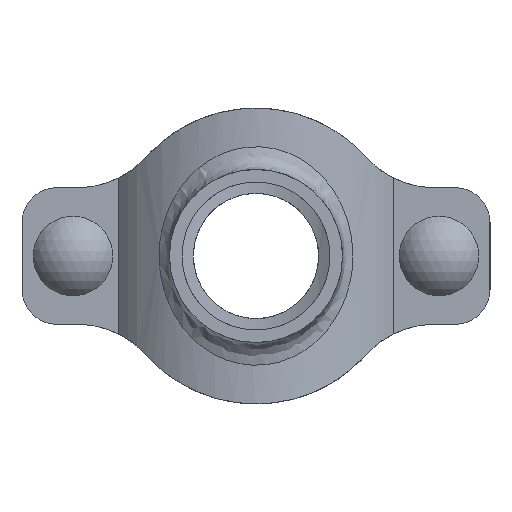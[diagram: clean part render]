
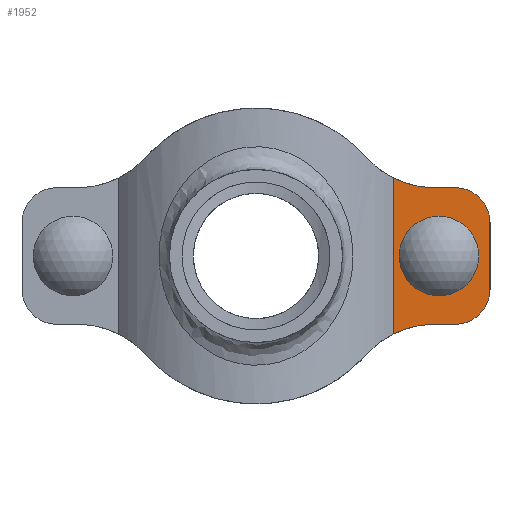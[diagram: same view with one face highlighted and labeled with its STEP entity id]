
A CAD part, front view. The second image highlights one B-rep face of the part: STEP entity #1952.
In plain terms, the highlighted planar face has unit normal (0, -1, 0) as drawn and (0, 1, 0) by its records, which use the part's own axes.
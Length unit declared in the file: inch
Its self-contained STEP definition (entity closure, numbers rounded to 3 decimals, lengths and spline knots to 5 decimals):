
#127=FACE_BOUND('',#345,.T.);
#218=FACE_OUTER_BOUND('',#344,.T.);
#344=EDGE_LOOP('',(#1623,#1624,#1625,#1626,#1627,#1628,#1629,#1630));
#345=EDGE_LOOP('',(#1631,#1632,#1633,#1634));
#457=LINE('',#3721,#603);
#468=LINE('',#3790,#614);
#472=LINE('',#3801,#618);
#490=LINE('',#4050,#636);
#491=LINE('',#4054,#637);
#492=LINE('',#4057,#638);
#603=VECTOR('',#2573,0.3937);
#614=VECTOR('',#2608,0.3937);
#618=VECTOR('',#2620,0.3937);
#636=VECTOR('',#2702,0.3937);
#637=VECTOR('',#2705,0.3937);
#638=VECTOR('',#2708,0.3937);
#712=CIRCLE('',#2164,0.2875);
#714=CIRCLE('',#2168,0.2875);
#733=CIRCLE('',#2201,1.);
#734=CIRCLE('',#2202,1.);
#735=CIRCLE('',#2203,0.38);
#736=CIRCLE('',#2204,0.38);
#858=VERTEX_POINT('',#3709);
#859=VERTEX_POINT('',#3720);
#869=VERTEX_POINT('',#3780);
#870=VERTEX_POINT('',#3781);
#873=VERTEX_POINT('',#3789);
#875=VERTEX_POINT('',#3795);
#907=VERTEX_POINT('',#4045);
#908=VERTEX_POINT('',#4047);
#909=VERTEX_POINT('',#4049);
#910=VERTEX_POINT('',#4051);
#911=VERTEX_POINT('',#4053);
#912=VERTEX_POINT('',#4055);
#1089=EDGE_CURVE('',#859,#858,#457,.T.);
#1104=EDGE_CURVE('',#869,#870,#712,.T.);
#1108=EDGE_CURVE('',#870,#873,#468,.T.);
#1111=EDGE_CURVE('',#873,#875,#714,.T.);
#1114=EDGE_CURVE('',#875,#869,#472,.T.);
#1156=EDGE_CURVE('',#859,#907,#733,.T.);
#1157=EDGE_CURVE('',#908,#858,#734,.T.);
#1158=EDGE_CURVE('',#909,#908,#490,.T.);
#1159=EDGE_CURVE('',#910,#909,#735,.T.);
#1160=EDGE_CURVE('',#911,#910,#491,.T.);
#1161=EDGE_CURVE('',#912,#911,#736,.T.);
#1162=EDGE_CURVE('',#907,#912,#492,.T.);
#1623=ORIENTED_EDGE('',*,*,#1156,.F.);
#1624=ORIENTED_EDGE('',*,*,#1089,.T.);
#1625=ORIENTED_EDGE('',*,*,#1157,.F.);
#1626=ORIENTED_EDGE('',*,*,#1158,.F.);
#1627=ORIENTED_EDGE('',*,*,#1159,.F.);
#1628=ORIENTED_EDGE('',*,*,#1160,.F.);
#1629=ORIENTED_EDGE('',*,*,#1161,.F.);
#1630=ORIENTED_EDGE('',*,*,#1162,.F.);
#1631=ORIENTED_EDGE('',*,*,#1111,.T.);
#1632=ORIENTED_EDGE('',*,*,#1114,.T.);
#1633=ORIENTED_EDGE('',*,*,#1104,.T.);
#1634=ORIENTED_EDGE('',*,*,#1108,.T.);
#1749=PLANE('',#2200);
#1952=ADVANCED_FACE('',(#218,#127),#1749,.F.);
#2164=AXIS2_PLACEMENT_3D('',#3782,#2600,#2601);
#2168=AXIS2_PLACEMENT_3D('',#3796,#2613,#2614);
#2200=AXIS2_PLACEMENT_3D('',#4044,#2696,#2697);
#2201=AXIS2_PLACEMENT_3D('',#4046,#2698,#2699);
#2202=AXIS2_PLACEMENT_3D('',#4048,#2700,#2701);
#2203=AXIS2_PLACEMENT_3D('',#4052,#2703,#2704);
#2204=AXIS2_PLACEMENT_3D('',#4056,#2706,#2707);
#2573=DIRECTION('',(0.,0.,-1.));
#2600=DIRECTION('center_axis',(0.,-1.,0.));
#2601=DIRECTION('ref_axis',(-1.,0.,0.));
#2608=DIRECTION('',(0.,0.,-1.));
#2613=DIRECTION('center_axis',(0.,-1.,0.));
#2614=DIRECTION('ref_axis',(1.,0.,0.));
#2620=DIRECTION('',(0.,0.,1.));
#2696=DIRECTION('center_axis',(0.,-1.,0.));
#2697=DIRECTION('ref_axis',(1.,0.,0.));
#2698=DIRECTION('center_axis',(0.,1.,0.));
#2699=DIRECTION('ref_axis',(-0.745,0.,0.667));
#2700=DIRECTION('center_axis',(0.,1.,0.));
#2701=DIRECTION('ref_axis',(0.,0.,-1.));
#2702=DIRECTION('',(1.,0.,0.));
#2703=DIRECTION('center_axis',(0.,-1.,0.));
#2704=DIRECTION('ref_axis',(0.,0.,-1.));
#2705=DIRECTION('',(0.,0.,-1.));
#2706=DIRECTION('center_axis',(0.,-1.,0.));
#2707=DIRECTION('ref_axis',(-1.,0.,0.));
#2708=DIRECTION('',(-1.,0.,0.));
#3709=CARTESIAN_POINT('',(-1.50967,1.25,-0.85541));
#3720=CARTESIAN_POINT('',(-1.50967,1.25,0.85541));
#3721=CARTESIAN_POINT('',(-1.50967,1.25,0.));
#3780=CARTESIAN_POINT('',(-1.7225,1.25,0.0925));
#3781=CARTESIAN_POINT('',(-2.2975,1.25,0.0925));
#3782=CARTESIAN_POINT('Origin',(-2.01,1.25,0.0925));
#3789=CARTESIAN_POINT('',(-2.2975,1.25,-0.0925));
#3790=CARTESIAN_POINT('',(-2.2975,1.25,-0.04625));
#3795=CARTESIAN_POINT('',(-1.7225,1.25,-0.0925));
#3796=CARTESIAN_POINT('Origin',(-2.01,1.25,-0.0925));
#3801=CARTESIAN_POINT('',(-1.7225,1.25,0.04625));
#4044=CARTESIAN_POINT('Origin',(-2.57,1.25,0.));
#4045=CARTESIAN_POINT('',(-1.95656,1.25,0.75));
#4046=CARTESIAN_POINT('Origin',(-1.95656,1.25,1.75));
#4047=CARTESIAN_POINT('',(-1.95656,1.25,-0.75));
#4048=CARTESIAN_POINT('Origin',(-1.95656,1.25,-1.75));
#4049=CARTESIAN_POINT('',(-2.19,1.25,-0.75));
#4050=CARTESIAN_POINT('',(-2.26328,1.25,-0.75));
#4051=CARTESIAN_POINT('',(-2.57,1.25,-0.37));
#4052=CARTESIAN_POINT('Origin',(-2.19,1.25,-0.37));
#4053=CARTESIAN_POINT('',(-2.57,1.25,0.37));
#4054=CARTESIAN_POINT('',(-2.57,1.25,-0.185));
#4055=CARTESIAN_POINT('',(-2.19,1.25,0.75));
#4056=CARTESIAN_POINT('Origin',(-2.19,1.25,0.37));
#4057=CARTESIAN_POINT('',(-2.38,1.25,0.75));
